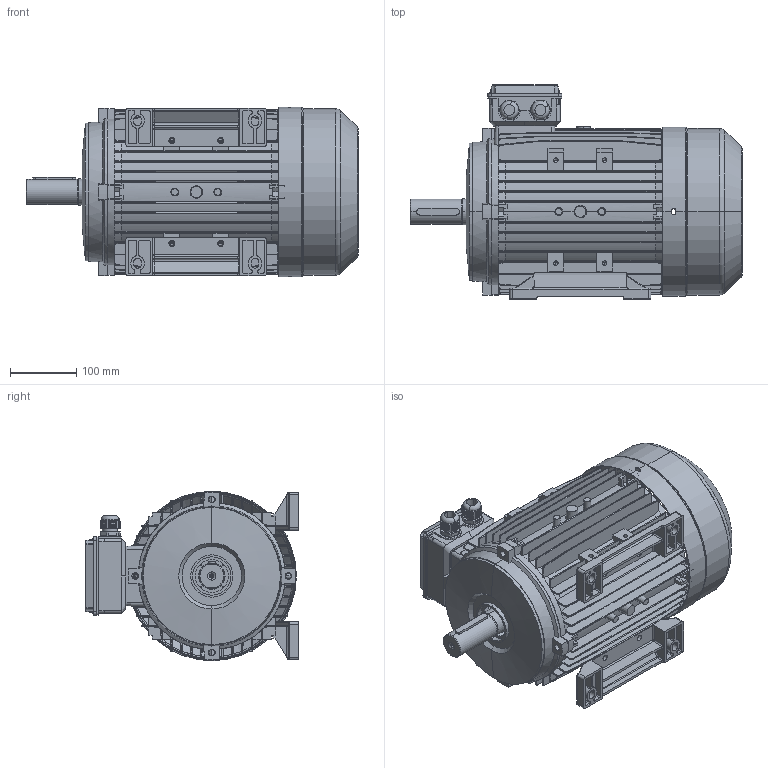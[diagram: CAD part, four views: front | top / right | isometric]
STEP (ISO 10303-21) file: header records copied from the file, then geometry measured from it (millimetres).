
FILE_DESCRIPTION (( 'STEP AP203' ), '1' );
FILE_NAME ('ME132M-4¡¢M2-6 assembly B3.STEP', '2013-01-11T11:29:42', ( '' ), ( '' ), 'SwSTEP 2.0', 'SolidWorks 2010', '' );
FILE_SCHEMA (( 'CONFIG_CONTROL_DESIGN' ));
Length unit declared in the file: millimetre
Products named in the file (9): M25 cable gland; M132-Shaft drive end_DNF; M132傷裔B3_Drive; ME132M-4﹜M2-6 assembly B3; M132儂褲_L; M132瑞欶_115; MS132諉盄碟裔; MS132諉盄碟釱_2Holes; M132菁褐(等謂)_L
Assembly tree (10 placements, depth 2):
  ME132M-4﹜M2-6 assembly B3
    M132-Shaft drive end_DNF
    MS132諉盄碟裔
    M132儂褲_L
    MS132諉盄碟釱_2Holes
    M25 cable gland  x2
    M132傷裔B3_Drive
    M132菁褐(等謂)_L  x2
    M132瑞欶_115
Bounding box: 503 x 324 x 256.4 mm (x, y, z)
Volume: 2517366.4 mm3; surface area: 1390228.1 mm2
Topology: 12 solids, 12 shells, 3684 faces, 9967 edges, 6329 vertices
Faces by surface type: plane 1825, cylinder 953, bspline 596, cone 216, torus 78, sphere 16
Entity records: 185122 total; most frequent: CARTESIAN_POINT 107215, ORIENTED_EDGE 17188, DIRECTION 13890, EDGE_CURVE 8594, VERTEX_POINT 5457, VECTOR 5002, LINE 5002, AXIS2_PLACEMENT_3D 4444
